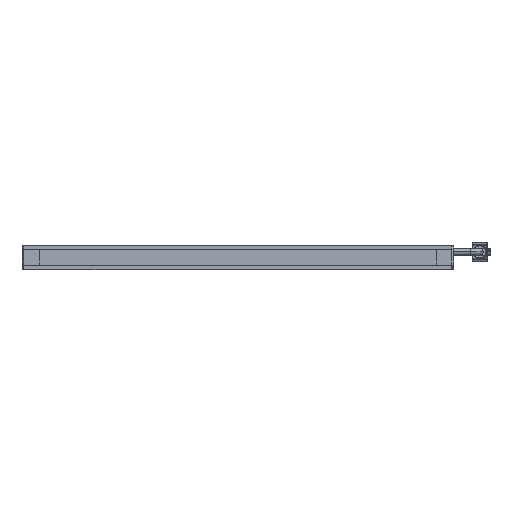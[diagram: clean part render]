
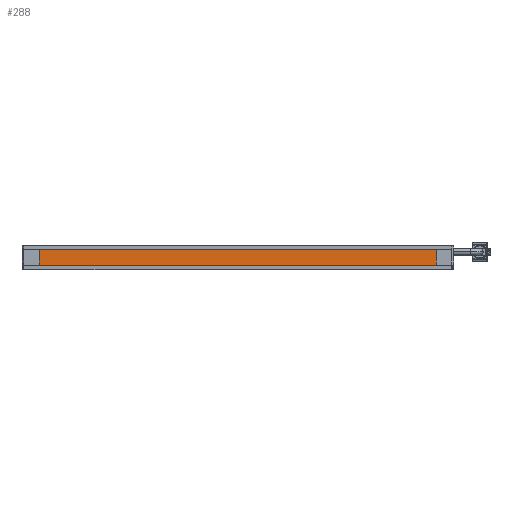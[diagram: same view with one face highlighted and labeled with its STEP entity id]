
A CAD part, front view. The second image highlights one B-rep face of the part: STEP entity #288.
In plain terms, the highlighted planar face has unit normal (0, -1, 0).
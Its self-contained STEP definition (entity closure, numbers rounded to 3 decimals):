
#100 = VECTOR ( 'NONE', #7080, 1000. ) ;
#211 = DIRECTION ( 'NONE',  ( 1., 0., 0. ) ) ;
#288 = ADVANCED_FACE ( 'NONE', ( #1485 ), #9711, .F. ) ;
#329 = CARTESIAN_POINT ( 'NONE',  ( -105.7, -165., 0. ) ) ;
#963 = LINE ( 'NONE', #7412, #6056 ) ;
#1097 = ORIENTED_EDGE ( 'NONE', *, *, #4983, .F. ) ;
#1270 = LINE ( 'NONE', #3951, #100 ) ;
#1485 = FACE_OUTER_BOUND ( 'NONE', #6740, .T. ) ;
#1873 = DIRECTION ( 'NONE',  ( 0., 0., 1. ) ) ;
#2334 = CARTESIAN_POINT ( 'NONE',  ( -105.7, -165., -8.5 ) ) ;
#2724 = CARTESIAN_POINT ( 'NONE',  ( -105.7, -165., 0. ) ) ;
#3007 = LINE ( 'NONE', #6532, #7518 ) ;
#3278 = VERTEX_POINT ( 'NONE', #7437 ) ;
#3486 = VERTEX_POINT ( 'NONE', #2334 ) ;
#3951 = CARTESIAN_POINT ( 'NONE',  ( -105.7, -165., 0. ) ) ;
#4329 = AXIS2_PLACEMENT_3D ( 'NONE', #329, #6542, #6576 ) ;
#4369 = DIRECTION ( 'NONE',  ( 0., 0., 1. ) ) ;
#4983 = EDGE_CURVE ( 'NONE', #3486, #7030, #3007, .T. ) ;
#5063 = EDGE_CURVE ( 'NONE', #9918, #3278, #963, .T. ) ;
#5095 = ORIENTED_EDGE ( 'NONE', *, *, #5063, .T. ) ;
#5401 = LINE ( 'NONE', #9267, #7084 ) ;
#6056 = VECTOR ( 'NONE', #1873, 1000. ) ;
#6532 = CARTESIAN_POINT ( 'NONE',  ( -105.7, -165., 0. ) ) ;
#6542 = DIRECTION ( 'NONE',  ( 0., 1., 0. ) ) ;
#6576 = DIRECTION ( 'NONE',  ( 0., 0., -1. ) ) ;
#6740 = EDGE_LOOP ( 'NONE', ( #5095, #7773, #1097, #8373 ) ) ;
#7030 = VERTEX_POINT ( 'NONE', #2724 ) ;
#7080 = DIRECTION ( 'NONE',  ( 1., 0., 0. ) ) ;
#7084 = VECTOR ( 'NONE', #211, 1000. ) ;
#7317 = EDGE_CURVE ( 'NONE', #3486, #9918, #5401, .T. ) ;
#7355 = EDGE_CURVE ( 'NONE', #7030, #3278, #1270, .T. ) ;
#7412 = CARTESIAN_POINT ( 'NONE',  ( 105.7, -165., 0. ) ) ;
#7437 = CARTESIAN_POINT ( 'NONE',  ( 105.7, -165., 0. ) ) ;
#7518 = VECTOR ( 'NONE', #4369, 1000. ) ;
#7773 = ORIENTED_EDGE ( 'NONE', *, *, #7355, .F. ) ;
#8373 = ORIENTED_EDGE ( 'NONE', *, *, #7317, .T. ) ;
#8454 = CARTESIAN_POINT ( 'NONE',  ( 105.7, -165., -8.5 ) ) ;
#9267 = CARTESIAN_POINT ( 'NONE',  ( -105.7, -165., -8.5 ) ) ;
#9711 = PLANE ( 'NONE',  #4329 ) ;
#9918 = VERTEX_POINT ( 'NONE', #8454 ) ;
